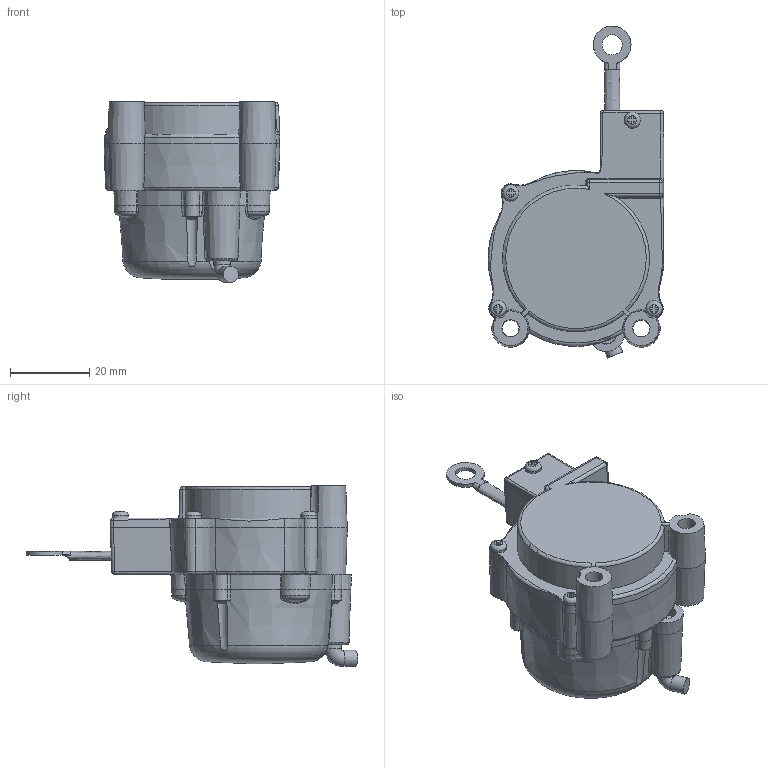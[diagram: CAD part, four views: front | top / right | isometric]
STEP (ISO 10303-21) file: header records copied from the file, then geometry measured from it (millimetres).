
FILE_DESCRIPTION(/* description */ (''),/* implementation_level */ '2;1');
FILE_NAME(/* name */ '\\truenas\1-DOC\Z-Jess Directory\00-Inventor Workspace\lx-em-16-2.stp',/* time_stamp */ '2023-06-01T09:39:53-07:00',/* author */ ('JessRP'),/* organization */ (''),/* preprocessor_version */ 'ST-DEVELOPER v18',/* originating_system */ 'Autodesk Inventor 2020',/* authorisation */ '');
FILE_SCHEMA (('AUTOMOTIVE_DESIGN { 1 0 10303 214 3 1 1 }'));
Length unit declared in the file: inch
Products named in the file (1): lx-em-16-2
Bounding box: 44.44 x 83.83 x 45.69 mm (x, y, z)
Volume: 60439.2 mm3; surface area: 14725.6 mm2
Topology: 1 solids, 19 shells, 540 faces, 1482 edges, 965 vertices
Faces by surface type: plane 206, cone 165, cylinder 67, bspline 63, torus 33, sphere 6
Full cylindrical faces by diameter (mm): 0.914 x24, 1.524 x3, 4.089 x4, 4.127 x2, 4.216 x2, 4.385 x2, 5.08 x1, 28.702 x1
Entity records: 26787 total; most frequent: CARTESIAN_POINT 13159, ORIENTED_EDGE 2946, DIRECTION 2771, EDGE_CURVE 1473, AXIS2_PLACEMENT_3D 1156, VERTEX_POINT 965, CIRCLE 654, EDGE_LOOP 560
